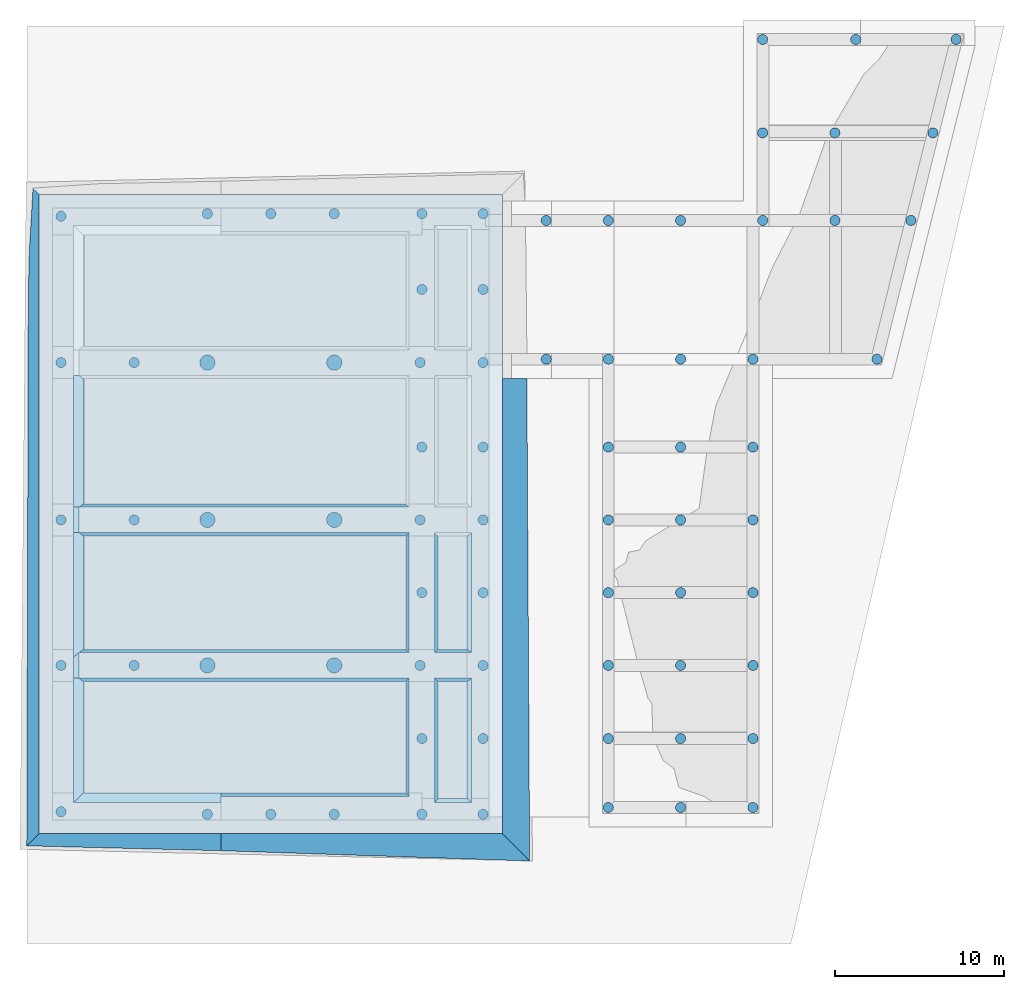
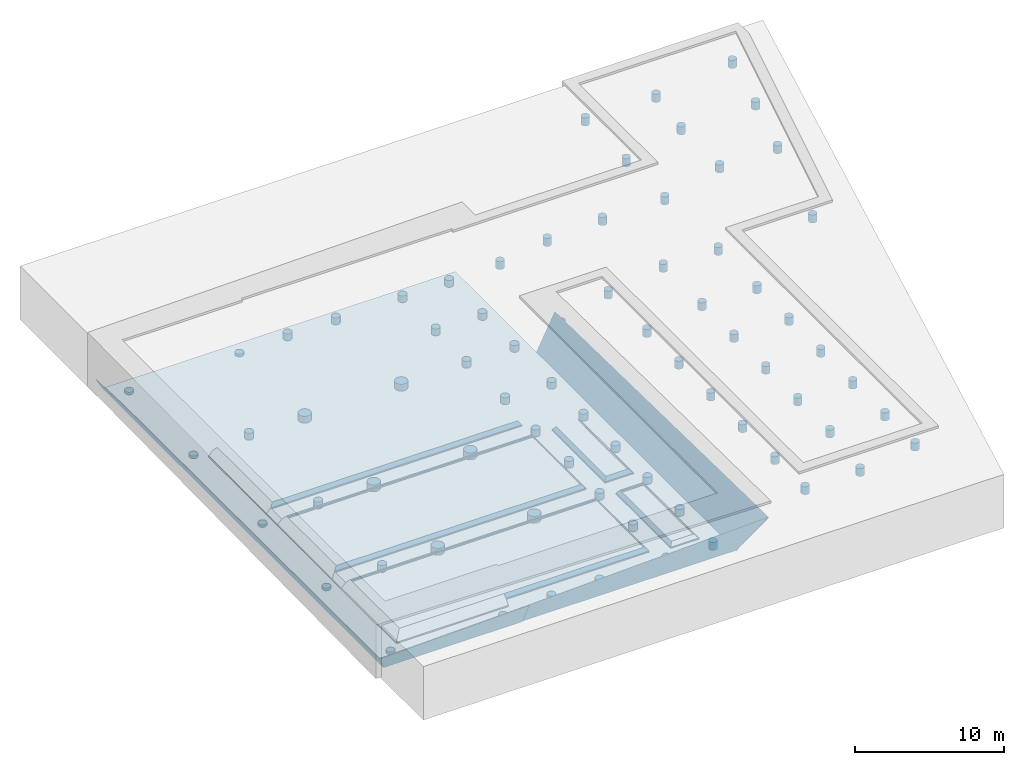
# One storey, part 1 of 7: 73 columns, 25 slabs.
"""IFC2X3 building model written with IfcOpenShell, lengths in millimetres."""

from ifc_helpers import new_model, entity, si_unit, converted_unit, derived_unit, money_unit, direction, frame, origin_with_axes, origin_2d_with_axis, place, context, subcontext, project, spatial, polyline, circle, outline, extrude, material, layer, layer_set, layer_usage, type_object, element, save


model = new_model("IFC2X3")

# Units and contexts
model_context = context("Model", 3, precision=0.01, world=origin_with_axes(), true_north=direction((0.0, 1.0)))
body_context = subcontext(model_context, "Body", "Model", "MODEL_VIEW")
ifc_project = project(units=[si_unit("LENGTHUNIT", "METRE", prefix="MILLI"), si_unit("AREAUNIT", "SQUARE_METRE"), si_unit("VOLUMEUNIT", "CUBIC_METRE"), converted_unit("PLANEANGLEUNIT", "DEGREE", entity("IfcPlaneAngleMeasure", 0.0174532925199), si_unit("PLANEANGLEUNIT", "RADIAN"), dimensions=[0, 0, 0, 0, 0, 0, 0]), money_unit("USD"), converted_unit("TIMEUNIT", "Year", entity("IfcTimeMeasure", 31556926.0), si_unit("TIMEUNIT", "SECOND"), dimensions=[0, 0, 1, 0, 0, 0, 0]), si_unit("MASSUNIT", "GRAM", prefix="KILO"), si_unit("THERMODYNAMICTEMPERATUREUNIT", "DEGREE_CELSIUS"), si_unit("LUMINOUSINTENSITYUNIT", "LUMEN"), si_unit("ENERGYUNIT", "JOULE", prefix="MEGA"), derived_unit("THERMALCONDUCTANCEUNIT", [(si_unit("POWERUNIT", "WATT"), 1), (si_unit("LENGTHUNIT", "METRE"), -1), (si_unit("THERMODYNAMICTEMPERATUREUNIT", "KELVIN"), -1)]), derived_unit("SPECIFICHEATCAPACITYUNIT", [(si_unit("ENERGYUNIT", "JOULE"), 1), (si_unit("MASSUNIT", "GRAM", prefix="KILO"), -1), (si_unit("THERMODYNAMICTEMPERATUREUNIT", "KELVIN"), -1)]), derived_unit("MASSDENSITYUNIT", [(si_unit("MASSUNIT", "GRAM", prefix="KILO"), 1), (si_unit("VOLUMEUNIT", "CUBIC_METRE"), -1)])], contexts=[model_context])

# Site, building, storey
site_placement = place(None, frame((9669.71692459, 4224.13032188, 0.0), z_axis=(0.0, 0.0, 1.0), x_axis=(1.0, 0.0, 0.0)))
site = spatial("IfcSite", under=ifc_project, at=site_placement, Name="Exteriér", CompositionType="ELEMENT")
building_placement = place(site_placement, origin_with_axes())
building = spatial("IfcBuilding", under=site, at=building_placement, Name="Budova", CompositionType="ELEMENT")
storey_placement = place(building_placement, frame((0.0, 0.0, -5000.0), z_axis=(0.0, 0.0, 1.0), x_axis=(1.0, 0.0, 0.0)))
storey = spatial("IfcBuildingStorey", under=building, at=storey_placement, Name="Základy", CompositionType="ELEMENT", Elevation=-5000.0)

# Columns
ifc_material_1 = material(Name="Železobeton C 20/25")
column_type_1 = type_object("IfcColumnType", Name="Železobeton C 20/25 D600", PredefinedType="COLUMN")
for number, where, z_axis, x_axis, name in (
    (1, (20204.7371319, 164.052499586, 2350.0), (0.0, 0.0, 1.0), (1.0, 0.0, 0.0), "K03"),
    (2, (-7820.25778142, 13089.0526984, 600.0), (0.0, 0.0, 1.0), (1.0, 0.0, 0.0), "K03"),
    (3, (-12145.2628681, -4160.94786567, 250.0), (0.0, 0.0, 1.0), (1.0, 0.0, 0.0), "K03"),
    (4, (-12145.2577814, 4489.05243066, 250.0), (0.0, 0.0, 1.0), (1.0, 0.0, 0.0), "K03"),
):
    element("IfcColumn", number, at=place(storey_placement, frame(where, z_axis=z_axis, x_axis=x_axis)), inside=storey, type_object=column_type_1, material=ifc_material_1, Name=name, context=body_context, shape_type="SweptSolid", body=[
        extrude(circle(Radius=300.0, at=origin_2d_with_axis()), origin_with_axes(), (0.0, 0.0, 1.0), 650.0),
    ])
column_1_placement = place(storey_placement, frame((4004.76224729, 31189.5400805, 600.0), z_axis=(0.0, 0.0, 1.0), x_axis=(-1.0, 0.0, 0.0)))
element("IfcColumn", 5, at=column_1_placement, inside=storey, type_object=column_type_1, material=ifc_material_1, Name="K03", context=body_context, shape_type="SweptSolid", body=[
    extrude(circle(Radius=300.0, at=origin_2d_with_axis()), frame((0.0, 0.0, 0.0), z_axis=(0.0, 0.0, -1.0), x_axis=(-1.0, 0.0, 0.0)), (0.0, 0.0, -1.0), 650.0),
])
for number, where, z_axis, x_axis, name in (
    (6, (-12145.2628681, 22389.0522029, 250.0), (0.0, 0.0, 1.0), (1.0, 0.0, 0.0), "K03"),
    (7, (12804.7371284, 22388.5642166, 600.0), (0.0, 0.0, 1.0), (1.0, 0.0, 0.0), "K03"),
    (8, (9184.76212196, -4311.43544694, 600.0), (0.0, 0.0, 1.0), (1.0, 0.0, 0.0), "K03"),
    (9, (28754.7371319, 164.052499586, 2940.0), (0.0, 0.0, 1.0), (1.0, 0.0, 0.0), "K03"),
    (10, (39387.3308835, 35969.0524993, 3040.0), (0.0, 0.0, 1.0), (1.0, 0.0, 0.0), "K03"),
    (11, (28754.7371319, -3910.94750072, 2940.0), (0.0, 0.0, 1.0), (1.0, 0.0, 0.0), "K03"),
    (12, (24479.7371319, 22589.0681254, 3048.0), (0.0, 0.0, 1.0), (1.0, 0.0, 0.0), "K03"),
):
    element("IfcColumn", number, at=place(storey_placement, frame(where, z_axis=z_axis, x_axis=x_axis)), inside=storey, type_object=column_type_1, material=ifc_material_1, Name=name, context=body_context, shape_type="SweptSolid", body=[
        extrude(circle(Radius=300.0, at=origin_2d_with_axis()), origin_with_axes(), (0.0, 0.0, 1.0), 650.0),
    ])
column_2_placement = place(storey_placement, frame((9184.76224728, 31189.5400805, 600.0), z_axis=(0.0, 0.0, 1.0), x_axis=(-1.0, 0.0, 0.0)))
element("IfcColumn", 13, at=column_2_placement, inside=storey, type_object=column_type_1, material=ifc_material_1, Name="K03", context=body_context, shape_type="SweptSolid", body=[
    extrude(circle(Radius=300.0, at=origin_2d_with_axis()), frame((0.0, 0.0, 0.0), z_axis=(0.0, 0.0, -1.0), x_axis=(-1.0, 0.0, 0.0)), (0.0, 0.0, -1.0), 650.0),
])
for number, where, z_axis, x_axis, name in (
    (14, (20204.7371319, 8789.05249929, 2340.41510655), (0.0, 0.0, 1.0), (1.0, 0.0, 0.0), "K03"),
    (15, (-7820.25778142, 22389.0522029, 600.0), (0.0, 0.0, 1.0), (1.0, 0.0, 0.0), "K03"),
    (16, (12804.7371284, 26713.5642166, 600.0), (0.0, 0.0, 1.0), (1.0, 0.0, 0.0), "K03"),
    (17, (28754.7371319, 4489.05249926, 2940.0), (0.0, 0.0, 1.0), (1.0, 0.0, 0.0), "K03"),
    (18, (12804.7371284, 163.564216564, 600.0), (0.0, 0.0, 1.0), (1.0, 0.0, 0.0), "K03"),
    (19, (24479.7371319, -3910.94750072, 2350.0), (0.0, 0.0, 1.0), (1.0, 0.0, 0.0), "K03"),
):
    element("IfcColumn", number, at=place(storey_placement, frame(where, z_axis=z_axis, x_axis=x_axis)), inside=storey, type_object=column_type_1, material=ifc_material_1, Name=name, context=body_context, shape_type="SweptSolid", body=[
        extrude(circle(Radius=300.0, at=origin_2d_with_axis()), origin_with_axes(), (0.0, 0.0, 1.0), 650.0),
    ])
for number, where, z_axis, x_axis, name in (
    (20, (-12145.2628681, 31039.0524993, 250.0), (0.0, 0.0, 1.0), (-1.0, 0.0, 0.0), "K03"),
    (21, (-3495.23757172, 31189.5400805, 250.0), (0.0, 0.0, 1.0), (-1.0, 0.0, 0.0), "K03"),
    (22, (254.762247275, 31189.5400805, 600.0), (0.0, 0.0, 1.0), (-1.0, 0.0, 0.0), "K03"),
):
    element("IfcColumn", number, at=place(storey_placement, frame(where, z_axis=z_axis, x_axis=x_axis)), inside=storey, type_object=column_type_1, material=ifc_material_1, Name=name, context=body_context, shape_type="SweptSolid", body=[
        extrude(circle(Radius=300.0, at=origin_2d_with_axis()), frame((0.0, 0.0, 0.0), z_axis=(0.0, 0.0, -1.0), x_axis=(-1.0, 0.0, 0.0)), (0.0, 0.0, -1.0), 650.0),
    ])
for number, where, z_axis, x_axis, name in (
    (23, (24479.7371319, 8789.05249929, 3048.0), (0.0, 0.0, 1.0), (1.0, 0.0, 0.0), "K03"),
    (24, (20204.7371319, 17389.0524993, 2350.0), (0.0, 0.0, 1.0), (1.0, 0.0, 0.0), "K03"),
    (25, (28754.7371319, 17389.0524993, 2940.0), (0.0, 0.0, 1.0), (1.0, 0.0, 0.0), "K03"),
    (26, (24479.7371319, 13089.0524993, 3048.0), (0.0, 0.0, 1.0), (1.0, 0.0, 0.0), "K03"),
    (27, (12804.7371284, -4311.43578344, 600.0), (0.0, 0.0, 1.0), (1.0, 0.0, 0.0), "K03"),
    (28, (24479.7371319, 17389.0524993, 3048.0), (0.0, 0.0, 1.0), (1.0, 0.0, 0.0), "K03"),
    (29, (4004.76224729, -4311.43544694, 600.0), (0.0, 0.0, 1.0), (1.0, 0.0, 0.0), "K03"),
    (30, (9184.73712196, 164.052282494, 600.0), (0.0, 0.0, 1.0), (1.0, 0.0, 0.0), "K03"),
    (31, (12804.7371284, 17388.5642163, 600.0), (0.0, 0.0, 1.0), (1.0, 0.0, 0.0), "K03"),
    (32, (24479.7371319, 164.052499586, 3048.0), (0.0, 0.0, 1.0), (1.0, 0.0, 0.0), "K03"),
    (33, (-12145.2577814, 13089.0526984, 250.0), (0.0, 0.0, 1.0), (1.0, 0.0, 0.0), "K03"),
    (34, (28754.7371319, 8789.05249929, 2940.0), (0.0, 0.0, 1.0), (1.0, 0.0, 0.0), "K03"),
    (35, (20204.7371319, 4489.05249926, 2350.0), (0.0, 0.0, 1.0), (1.0, 0.0, 0.0), "K03"),
    (36, (38094.3308835, 30789.0524992, 3048.0), (0.0, 0.0, 1.0), (1.0, 0.0, 0.0), "K03"),
    (37, (9084.7372608, 22389.0522029, 600.0), (0.0, 0.0, 1.0), (1.0, 0.0, 0.0), "K03"),
    (38, (12804.7371284, 4488.5642166, 600.0), (0.0, 0.0, 1.0), (1.0, 0.0, 0.0), "K03"),
    (39, (28754.7371319, 13089.0524993, 2940.0), (0.0, 0.0, 1.0), (1.0, 0.0, 0.0), "K03"),
    (40, (9084.7372608, 13089.0526984, 600.0), (0.0, 0.0, 1.0), (1.0, 0.0, 0.0), "K03"),
    (41, (34830.3308835, 41489.0534133, 1920.0), (0.0, 0.0, 1.0), (1.0, 0.0, 0.0), "K03"),
    (42, (33600.3308835, 30789.0524992, 3048.0), (0.0, 0.0, 1.0), (1.0, 0.0, 0.0), "K03"),
    (43, (16534.7371319, 22589.0681254, 1080.0), (0.0, 0.0, 1.0), (1.0, 0.0, 0.0), "K03"),
    (44, (24479.7371319, 4489.05249926, 3048.0), (0.0, 0.0, 1.0), (1.0, 0.0, 0.0), "K03"),
):
    element("IfcColumn", number, at=place(storey_placement, frame(where, z_axis=z_axis, x_axis=x_axis)), inside=storey, type_object=column_type_1, material=ifc_material_1, Name=name, context=body_context, shape_type="SweptSolid", body=[
        extrude(circle(Radius=300.0, at=origin_2d_with_axis()), origin_with_axes(), (0.0, 0.0, 1.0), 650.0),
    ])
column_3_placement = place(storey_placement, frame((12804.7371284, 31188.5642162, 600.0), z_axis=(0.0, 0.0, 1.0), x_axis=(-1.0, 0.0, 0.0)))
element("IfcColumn", 45, at=column_3_placement, inside=storey, type_object=column_type_1, material=ifc_material_1, Name="K03", context=body_context, shape_type="SweptSolid", body=[
    extrude(circle(Radius=300.0, at=origin_2d_with_axis()), frame((0.0, 0.0, 0.0), z_axis=(0.0, 0.0, -1.0), x_axis=(-1.0, 0.0, 0.0)), (0.0, 0.0, -1.0), 650.0),
])
for number, where, z_axis, x_axis, name in (
    (46, (12804.7371284, 13088.5642163, 600.0), (0.0, 0.0, 1.0), (1.0, 0.0, 0.0), "K03"),
    (47, (29330.3308835, 35969.0524993, 1920.0), (0.0, 0.0, 1.0), (1.0, 0.0, 0.0), "K03"),
    (48, (29330.3308835, 30789.0524992, 1920.0), (0.0, 0.0, 1.0), (1.0, 0.0, 0.0), "K03"),
    (49, (29330.3308835, 41489.0534133, 1920.0), (0.0, 0.0, 1.0), (1.0, 0.0, 0.0), "K03"),
    (50, (20204.7371319, -3910.94750072, 2350.0), (0.0, 0.0, 1.0), (1.0, 0.0, 0.0), "K03"),
    (51, (40761.3308835, 41489.0534133, 2640.0), (0.0, 0.0, 1.0), (1.0, 0.0, 0.0), "K03"),
    (52, (24479.7371319, 30789.0524992, 1920.0), (0.0, 0.0, 1.0), (1.0, 0.0, 0.0), "K03"),
    (53, (20204.7371319, 13089.0524993, 2350.0), (0.0, 0.0, 1.0), (1.0, 0.0, 0.0), "K03"),
    (54, (36083.7112354, 22589.0681254, 3040.0), (0.0, 0.0, 1.0), (1.0, 0.0, 0.0), "K03"),
    (55, (254.762247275, -4311.43544694, 600.0), (0.0, 0.0, 1.0), (1.0, 0.0, 0.0), "K03"),
    (56, (20204.7371319, 30789.0524992, 1700.0), (0.0, 0.0, 1.0), (1.0, 0.0, 0.0), "K03"),
    (57, (9184.73712196, 8789.05256452, 600.0), (0.0, 0.0, 1.0), (1.0, 0.0, 0.0), "K03"),
    (58, (20204.7371319, 22589.0681254, 2350.0), (0.0, 0.0, 1.0), (1.0, 0.0, 0.0), "K03"),
    (59, (16534.7371319, 30789.0524992, 1087.0), (0.0, 0.0, 1.0), (1.0, 0.0, 0.0), "K03"),
    (60, (28754.7371319, 22589.0681254, 2940.0), (0.0, 0.0, 1.0), (1.0, 0.0, 0.0), "K03"),
    (61, (-3495.23757172, -4311.43544694, 250.0), (0.0, 0.0, 1.0), (1.0, 0.0, 0.0), "K03"),
    (62, (-7820.25778142, 4489.05243066, 600.0), (0.0, 0.0, 1.0), (1.0, 0.0, 0.0), "K03"),
    (63, (9184.73712196, 26714.0523511, 600.0), (0.0, 0.0, 1.0), (1.0, 0.0, 0.0), "K03"),
    (64, (12804.7371284, 8786.47912805, 600.0), (0.0, 0.0, 1.0), (1.0, 0.0, 0.0), "K03"),
    (65, (9084.7372608, 4489.05243066, 600.0), (0.0, 0.0, 1.0), (1.0, 0.0, 0.0), "K03"),
    (66, (33600.3308835, 35969.0524993, 3040.0), (0.0, 0.0, 1.0), (1.0, 0.0, 0.0), "K03"),
    (67, (9184.73712196, 17388.7000933, 600.0), (0.0, 0.0, 1.0), (1.0, 0.0, 0.0), "K03"),
):
    element("IfcColumn", number, at=place(storey_placement, frame(where, z_axis=z_axis, x_axis=x_axis)), inside=storey, type_object=column_type_1, material=ifc_material_1, Name=name, context=body_context, shape_type="SweptSolid", body=[
        extrude(circle(Radius=300.0, at=origin_2d_with_axis()), origin_with_axes(), (0.0, 0.0, 1.0), 650.0),
    ])
column_type_2 = type_object("IfcColumnType", Name="Železobeton C 20/25 D900", PredefinedType="COLUMN")
for number, where, z_axis, x_axis, name in (
    (68, (4004.73706627, 22389.0522029, 600.0), (0.0, 0.0, 1.0), (1.0, 0.0, 0.0), "K03"),
    (69, (-3495.26257172, 22389.0524307, 600.0), (0.0, 0.0, 1.0), (1.0, 0.0, 0.0), "K03"),
    (70, (-3495.26257172, 13089.0524303, 600.0), (0.0, 0.0, 1.0), (1.0, 0.0, 0.0), "K03"),
    (71, (4004.73742829, 4489.05243066, 600.0), (0.0, 0.0, 1.0), (1.0, 0.0, 0.0), "K03"),
    (72, (4004.73742829, 13089.0524303, 600.0), (0.0, 0.0, 1.0), (1.0, 0.0, 0.0), "K03"),
    (73, (-3495.26257172, 4489.05243066, 600.0), (0.0, 0.0, 1.0), (1.0, 0.0, 0.0), "K03"),
):
    element("IfcColumn", number, at=place(storey_placement, frame(where, z_axis=z_axis, x_axis=x_axis)), inside=storey, type_object=column_type_2, material=ifc_material_1, Name=name, context=body_context, shape_type="SweptSolid", body=[
        extrude(circle(Radius=450.0, at=origin_2d_with_axis()), origin_with_axes(), (0.0, 0.0, 1.0), 650.0),
    ])

# Slabs
ifc_material_2 = material(Name="Zemina - původní")
ifc_layer_1 = layer(ifc_material_2, 1.0, ventilated="UNKNOWN")
ifc_layer_set_1 = layer_set([ifc_layer_1], Name="Zemina - původní 1")
ifc_layer_usage_1 = layer_usage(ifc_layer_set_1, "AXIS3", "NEGATIVE", 1.0)
slab_type_1 = type_object("IfcSlabType", Name="Zemina - původní 1", PredefinedType="FLOOR")
slab_1_placement = place(storey_placement, frame((13954.737132, 32339.0524992, 699.0), z_axis=(0.0, 0.0, 1.0), x_axis=(1.0, 0.0, 0.0)))
element("IfcSlab", 74, at=slab_1_placement, inside=storey, type_object=slab_type_1, material=ifc_layer_usage_1, Name="Pomocné výkopy", PredefinedType="FLOOR", context=body_context, shape_type="SweptSolid", body=[
    extrude(outline(polyline([(0.0, 0.0), (-27404.0, 3.2585489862e-08), (-27401.326437, -37799.9999997), (0.0, -37799.9999997), (0.0, 0.0)])), origin_with_axes(), (0.0, 0.0, 1.0), 1.0),
])
ifc_layer_2 = layer(ifc_material_2, 19.859895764, ventilated="UNKNOWN")
ifc_layer_set_2 = layer_set([ifc_layer_2], Name="Zemina - původní 19.8599")
ifc_layer_usage_2 = layer_usage(ifc_layer_set_2, "AXIS3", "NEGATIVE", 19.859895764)
slab_type_2 = type_object("IfcSlabType", Name="Zemina - původní 20", PredefinedType="ROOF")
slab_2_placement = place(storey_placement, frame((-2680.51488801, -5460.94750041, 656.254820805), z_axis=(0.0, 0.0, 1.0), x_axis=(-1.0, 0.0, 0.0)))
element("IfcSlab", 75, at=slab_2_placement, inside=storey, type_object=slab_type_2, material=ifc_layer_usage_2, Name="Pomocné výkopy", PredefinedType="ROOF", context=body_context, shape_type="SweptSolid", body=[
    extrude(outline(polyline([(0.0, 0.0), (10764.7479801, 0.0), (11499.0389559, 1576.83439449), (0.0, 2212.32665674), (0.0, 0.0)])), frame((0.0, 0.0, 0.0), z_axis=(0.0, -0.891006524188, 0.45399049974), x_axis=(1.0, 0.0, 0.0)), (0.0, 0.891006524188, 0.45399049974), 43.7451791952),
])
ifc_layer_usage_3 = layer_usage(ifc_layer_set_2, "AXIS3", "NEGATIVE", 19.859895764)
slab_3_placement = place(storey_placement, frame((-13445.2628681, -5460.94750041, 656.254820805), z_axis=(0.0, 0.0, 1.0), x_axis=(0.0, 1.0, 0.0)))
element("IfcSlab", 76, at=slab_3_placement, inside=storey, type_object=slab_type_2, material=ifc_layer_usage_3, Name="Pomocné výkopy", PredefinedType="ROOF", context=body_context, shape_type="SweptSolid", body=[
    extrude(outline(polyline([(-734.290975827, 1600.90604131), (0.0, 0.0), (37799.9999997, 0.0), (38178.6321161, 784.912536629), (34517.9143336, 1254.64251452), (32051.8578137, 1390.73334327), (-734.290975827, 1600.90604131)])), frame((0.0, 0.0, 0.0), z_axis=(0.0, -0.891006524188, 0.45399049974), x_axis=(1.0, 0.0, 0.0)), (0.0, 0.891006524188, 0.45399049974), 43.7451791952),
])
ifc_material_3 = material(Name="Beton Prostý C 16/20")
ifc_layer_3 = layer(ifc_material_3, 58.3966337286, ventilated="UNKNOWN")
ifc_layer_set_3 = layer_set([ifc_layer_3], Name="Beton Prostý C 16/20 58.3966")
ifc_layer_usage_4 = layer_usage(ifc_layer_set_3, "AXIS3", "NEGATIVE", 58.3966337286)
slab_type_3 = type_object("IfcSlabType", Name="Beton Prostý C 16/20 58", PredefinedType="ROOF")
slab_4_placement = place(storey_placement, frame((12114.7374048, 3739.05243066, 1150.0), z_axis=(0.0, 0.0, 1.0), x_axis=(-1.0, 0.0, 0.0)))
element("IfcSlab", 77, at=slab_4_placement, inside=storey, type_object=slab_type_3, material=ifc_layer_usage_4, Name="Podkladní beton", PredefinedType="ROOF", context=body_context, shape_type="SweptSolid", body=[
    extrude(outline(polyline([(0.0, 0.0), (2180.00026948, 0.0), (1980.00027925, 342.485494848), (249.999982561, 342.485494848), (0.0, 0.0)])), frame((0.0, 0.0, 0.0), z_axis=(0.0, -0.811777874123, 0.583966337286), x_axis=(1.0, 0.0, 0.0)), (0.0, 0.811777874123, 0.583966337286), 100.0),
])
ifc_layer_usage_5 = layer_usage(ifc_layer_set_3, "AXIS3", "NEGATIVE", 58.3966337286)
slab_5_placement = place(storey_placement, frame((8434.73712196, 5239.05243066, 1150.0), z_axis=(0.0, 0.0, 1.0), x_axis=(-1.0, 0.0, 0.0)))
element("IfcSlab", 78, at=slab_5_placement, inside=storey, type_object=slab_type_3, material=ifc_layer_usage_5, Name="Podkladní beton", PredefinedType="ROOF", context=body_context, shape_type="SweptSolid", body=[
    extrude(outline(polyline([(0.0, 0.0), (200.0, -342.485494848), (19265.000137, -342.485494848), (19515.1115981, 0.0), (0.0, 0.0)])), frame((0.0, 0.0, 0.0), z_axis=(0.0, 0.811777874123, 0.583966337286), x_axis=(1.0, 0.0, 0.0)), (0.0, -0.811777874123, 0.583966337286), 100.0),
])
ifc_layer_usage_6 = layer_usage(ifc_layer_set_3, "AXIS3", "NEGATIVE", 58.3966337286)
slab_6_placement = place(storey_placement, frame((9934.73711791, 3739.05243066, 1150.0), z_axis=(0.0, 0.0, 1.0), x_axis=(2.36942822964e-09, -1.0, 0.0)))
element("IfcSlab", 79, at=slab_6_placement, inside=storey, type_object=slab_type_3, material=ifc_layer_usage_6, Name="Podkladní beton", PredefinedType="ROOF", context=body_context, shape_type="SweptSolid", body=[
    extrude(outline(polyline([(0.0, 0.0), (7360.00029633, 0.0), (7109.99979307, 342.485472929), (200.000000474, 342.485507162), (0.0, 0.0)])), frame((0.0, 0.0, 0.0), z_axis=(0.0, -0.811777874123, 0.583966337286), x_axis=(1.0, 0.0, 0.0)), (0.0, 0.811777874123, 0.583966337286), 100.0),
])
ifc_layer_usage_7 = layer_usage(ifc_layer_set_3, "AXIS3", "NEGATIVE", 58.3966337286)
slab_7_placement = place(storey_placement, frame((12114.7374048, 5239.05243066, 1162.66737047), z_axis=(0.0, 0.0, 1.0), x_axis=(2.45618802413e-09, 1.0, 0.0)))
element("IfcSlab", 80, at=slab_7_placement, inside=storey, type_object=slab_type_3, material=ifc_layer_usage_7, Name="Podkladní beton", PredefinedType="ROOF", context=body_context, shape_type="SweptSolid", body=[
    extrude(outline(polyline([(7100.00026771, 0.0), (6900.0002671, 373.876984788), (199.999999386, 373.876960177), (0.0, 0.0), (7100.00026771, 0.0)])), frame((0.0, 0.0, 0.0), z_axis=(0.0, -0.743560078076, 0.668669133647), x_axis=(1.0, 0.0, 0.0)), (0.0, 0.743560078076, 0.668669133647), 87.3326295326),
])
ifc_layer_usage_8 = layer_usage(ifc_layer_set_3, "AXIS3", "NEGATIVE", 58.3966337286)
slab_8_placement = place(storey_placement, frame((-11080.3744761, 12339.0526984, 1151.75255349), z_axis=(0.0, 0.0, 1.0), x_axis=(1.0, 0.0, 0.0)))
element("IfcSlab", 81, at=slab_8_placement, inside=storey, type_object=slab_type_3, material=ifc_layer_usage_8, Name="Podkladní beton", PredefinedType="ROOF", context=body_context, shape_type="SweptSolid", body=[
    extrude(outline(polyline([(19515.1115981, 0.0), (0.0, 0.0), (250.11146112, -341.321707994), (19315.1115981, -341.321707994), (19515.1115981, 0.0)])), frame((0.0, 0.0, 0.0), z_axis=(0.0, 0.810341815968, 0.585957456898), x_axis=(1.0, 0.0, 0.0)), (0.0, -0.810341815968, 0.585957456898), 99.6601938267),
])
ifc_layer_usage_9 = layer_usage(ifc_layer_set_3, "AXIS3", "NEGATIVE", 58.3966337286)
slab_9_placement = place(storey_placement, frame((8434.73712196, -3255.94736193, 1151.75255349), z_axis=(0.0, 0.0, 1.0), x_axis=(-1.0, 0.0, 0.0)))
element("IfcSlab", 82, at=slab_9_placement, inside=storey, type_object=slab_type_3, material=ifc_layer_usage_9, Name="Podkladní beton", PredefinedType="ROOF", context=body_context, shape_type="SweptSolid", body=[
    extrude(outline(polyline([(0.0, 0.0), (200.0, -341.321707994), (11115.25201, -341.321707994), (11115.25201, 0.0), (0.0, 0.0)])), frame((0.0, 0.0, 0.0), z_axis=(0.0, 0.810341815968, 0.585957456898), x_axis=(1.0, 0.0, 0.0)), (0.0, -0.810341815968, 0.585957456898), 99.6601938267),
])
ifc_layer_usage_10 = layer_usage(ifc_layer_set_3, "AXIS3", "NEGATIVE", 58.3966337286)
slab_10_placement = place(storey_placement, frame((9934.73713535, -3620.94786567, 1162.66746785), z_axis=(0.0, 0.0, 1.0), x_axis=(1.0, 0.0, 0.0)))
element("IfcSlab", 83, at=slab_10_placement, inside=storey, type_object=slab_type_3, material=ifc_layer_usage_10, Name="Podkladní beton", PredefinedType="ROOF", context=body_context, shape_type="SweptSolid", body=[
    extrude(outline(polyline([(2180.00026948, 0.0), (1930.00028692, 373.877321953), (199.999986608, 373.877321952), (0.0, 0.0), (2180.00026948, 0.0)])), frame((0.0, 0.0, 0.0), z_axis=(0.0, -0.74355940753, 0.668669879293), x_axis=(1.0, 0.0, 0.0)), (0.0, 0.74355940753, 0.668669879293), 87.3325321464),
])
ifc_layer_usage_11 = layer_usage(ifc_layer_set_3, "AXIS3", "NEGATIVE", 58.3966337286)
slab_11_placement = place(storey_placement, frame((8434.73712196, 13839.0526984, 1150.0), z_axis=(0.0, 0.0, 1.0), x_axis=(-1.0, 0.0, 0.0)))
element("IfcSlab", 84, at=slab_11_placement, inside=storey, type_object=slab_type_3, material=ifc_layer_usage_11, Name="Podkladní beton", PredefinedType="ROOF", context=body_context, shape_type="SweptSolid", body=[
    extrude(outline(polyline([(0.0, 0.0), (200.0, -342.485494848), (19265.000137, -342.485494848), (19515.1115981, 0.0), (0.0, 0.0)])), frame((0.0, 0.0, 0.0), z_axis=(0.0, 0.811777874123, 0.583966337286), x_axis=(1.0, 0.0, 0.0)), (0.0, -0.811777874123, 0.583966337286), 100.0),
])
ifc_layer_usage_12 = layer_usage(ifc_layer_set_3, "AXIS3", "NEGATIVE", 58.3966337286)
slab_12_placement = place(storey_placement, frame((-11080.3744761, 3739.05243066, 1151.75255349), z_axis=(0.0, 0.0, 1.0), x_axis=(1.0, 0.0, 0.0)))
element("IfcSlab", 85, at=slab_12_placement, inside=storey, type_object=slab_type_3, material=ifc_layer_usage_12, Name="Podkladní beton", PredefinedType="ROOF", context=body_context, shape_type="SweptSolid", body=[
    extrude(outline(polyline([(19515.1115981, 0.0), (0.0, 0.0), (250.11146112, -341.321707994), (19315.1115981, -341.321707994), (19515.1115981, 0.0)])), frame((0.0, 0.0, 0.0), z_axis=(0.0, 0.810341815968, 0.585957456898), x_axis=(1.0, 0.0, 0.0)), (0.0, -0.810341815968, 0.585957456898), 99.6601938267),
])
ifc_layer_usage_13 = layer_usage(ifc_layer_set_3, "AXIS3", "NEGATIVE", 58.3966337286)
slab_13_placement = place(storey_placement, frame((9934.73711791, 12339.0526984, 1150.0), z_axis=(0.0, 0.0, 1.0), x_axis=(2.45620003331e-09, -1.0, 0.0)))
element("IfcSlab", 86, at=slab_13_placement, inside=storey, type_object=slab_type_3, material=ifc_layer_usage_13, Name="Podkladní beton", PredefinedType="ROOF", context=body_context, shape_type="SweptSolid", body=[
    extrude(outline(polyline([(0.0, 0.0), (7100.00026771, 0.0), (6900.0002682, 342.485495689), (200.000000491, 342.485507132), (0.0, 0.0)])), frame((0.0, 0.0, 0.0), z_axis=(0.0, -0.811777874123, 0.583966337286), x_axis=(1.0, 0.0, 0.0)), (0.0, 0.811777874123, 0.583966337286), 100.0),
])
ifc_layer_usage_14 = layer_usage(ifc_layer_set_3, "AXIS3", "NEGATIVE", 58.3966337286)
slab_14_placement = place(storey_placement, frame((12114.7374048, -3620.94786567, 1162.66737047), z_axis=(0.0, 0.0, 1.0), x_axis=(2.36942822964e-09, 1.0, 0.0)))
element("IfcSlab", 87, at=slab_14_placement, inside=storey, type_object=slab_type_3, material=ifc_layer_usage_14, Name="Podkladní beton", PredefinedType="ROOF", context=body_context, shape_type="SweptSolid", body=[
    extrude(outline(polyline([(7360.00029633, 0.0), (7160.00029574, 373.8769848), (250.000503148, 373.876960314), (0.0, 0.0), (7360.00029633, 0.0)])), frame((0.0, 0.0, 0.0), z_axis=(0.0, -0.743560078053, 0.668669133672), x_axis=(1.0, 0.0, 0.0)), (0.0, 0.743560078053, 0.668669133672), 87.3326295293),
])
ifc_layer_usage_15 = layer_usage(ifc_layer_set_3, "AXIS3", "NEGATIVE", 58.3966337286)
slab_15_placement = place(storey_placement, frame((9934.73713535, 5239.05243066, 1150.0), z_axis=(0.0, 0.0, 1.0), x_axis=(1.0, 0.0, 0.0)))
element("IfcSlab", 88, at=slab_15_placement, inside=storey, type_object=slab_type_3, material=ifc_layer_usage_15, Name="Podkladní beton", PredefinedType="ROOF", context=body_context, shape_type="SweptSolid", body=[
    extrude(outline(polyline([(2180.00026948, 0.0), (1930.00028692, 342.485494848), (200.0, 342.485494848), (0.0, 0.0), (2180.00026948, 0.0)])), frame((0.0, 0.0, 0.0), z_axis=(0.0, -0.811777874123, 0.583966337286), x_axis=(1.0, 0.0, 0.0)), (0.0, 0.811777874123, 0.583966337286), 100.0),
])
ifc_layer_usage_16 = layer_usage(ifc_layer_set_3, "AXIS3", "NEGATIVE", 58.3966337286)
slab_16_placement = place(storey_placement, frame((8434.73712196, 5239.05243066, 1150.0), z_axis=(0.0, 0.0, 1.0), x_axis=(0.0, 1.0, 0.0)))
element("IfcSlab", 89, at=slab_16_placement, inside=storey, type_object=slab_type_3, material=ifc_layer_usage_16, Name="Podkladní beton", PredefinedType="ROOF", context=body_context, shape_type="SweptSolid", body=[
    extrude(outline(polyline([(7100.00026771, 0.0), (6900.00026771, 342.485494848), (200.0, 342.485494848), (0.0, 0.0), (7100.00026771, 0.0)])), frame((0.0, 0.0, 0.0), z_axis=(0.0, -0.811777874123, 0.583966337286), x_axis=(1.0, 0.0, 0.0)), (0.0, 0.811777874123, 0.583966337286), 100.0),
])
ifc_layer_usage_17 = layer_usage(ifc_layer_set_3, "AXIS3", "NEGATIVE", 58.3966337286)
slab_17_placement = place(storey_placement, frame((8434.73712196, -3255.94736193, 1150.0), z_axis=(0.0, 0.0, 1.0), x_axis=(0.0, 1.0, 0.0)))
element("IfcSlab", 90, at=slab_17_placement, inside=storey, type_object=slab_type_3, material=ifc_layer_usage_17, Name="Podkladní beton", PredefinedType="ROOF", context=body_context, shape_type="SweptSolid", body=[
    extrude(outline(polyline([(6994.99979259, 0.0), (6794.99979259, 342.485494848), (200.0, 342.485494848), (0.0, 0.0), (6994.99979259, 0.0)])), frame((0.0, 0.0, 0.0), z_axis=(0.0, -0.811777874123, 0.583966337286), x_axis=(1.0, 0.0, 0.0)), (0.0, 0.811777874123, 0.583966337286), 100.0),
])
ifc_layer_4 = layer(ifc_material_3, 66.8833917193, ventilated="UNKNOWN")
ifc_layer_set_4 = layer_set([ifc_layer_4], Name="Beton Prostý C 16/20 66.8834")
ifc_layer_usage_18 = layer_usage(ifc_layer_set_4, "AXIS3", "NEGATIVE", 66.8833917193)
slab_type_4 = type_object("IfcSlabType", Name="Beton Prostý C 16/20 67", PredefinedType="ROOF")
slab_18_placement = place(storey_placement, frame((-11395.263015, -3620.94736193, 800.0), z_axis=(0.0, 0.0, 1.0), x_axis=(0.0, 1.0, 0.0)))
element("IfcSlab", 91, at=slab_18_placement, inside=storey, type_object=slab_type_4, material=ifc_layer_usage_18, Name="Podkladní beton", PredefinedType="ROOF", context=body_context, shape_type="SweptSolid", body=[
    extrude(outline(polyline([(7359.99979259, -470.802211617), (7359.99979259, 0.0), (0.0, 0.0), (565.000031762, -844.753857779), (7159.99976485, -844.753857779), (7359.99979259, -470.802211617)])), frame((0.0, 0.0, 0.0), z_axis=(0.0, 0.743411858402, 0.668833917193), x_axis=(1.0, 0.0, 0.0)), (0.0, -0.743411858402, 0.668833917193), 100.0),
])
ifc_layer_usage_19 = layer_usage(ifc_layer_set_4, "AXIS3", "NEGATIVE", 66.8833917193)
slab_19_placement = place(storey_placement, frame((-11395.263015, 13587.2541303, 800.0), z_axis=(0.0, 0.0, 1.0), x_axis=(0.0, -1.0, 0.0)))
element("IfcSlab", 92, at=slab_19_placement, inside=storey, type_object=slab_type_4, material=ifc_layer_usage_19, Name="Podkladní beton", PredefinedType="ROOF", context=body_context, shape_type="SweptSolid", body=[
    extrude(outline(polyline([(-251.798568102, 0.0), (1248.2014319, 0.0), (1248.2014319, 470.802211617), (-251.798568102, 470.802288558), (-251.798568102, 0.0)])), frame((0.0, 0.0, 0.0), z_axis=(0.0, -0.743411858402, 0.668833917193), x_axis=(1.0, 0.0, 0.0)), (0.0, 0.743411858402, 0.668833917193), 100.0),
])
ifc_layer_usage_20 = layer_usage(ifc_layer_set_4, "AXIS3", "NEGATIVE", 66.8833917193)
slab_20_placement = place(storey_placement, frame((-11395.263015, 13839.0526984, 800.0), z_axis=(0.0, 0.0, 1.0), x_axis=(0.0, 1.0, 0.0)))
element("IfcSlab", 93, at=slab_20_placement, inside=storey, type_object=slab_type_4, material=ifc_layer_usage_20, Name="Podkladní beton", PredefinedType="ROOF", context=body_context, shape_type="SweptSolid", body=[
    extrude(outline(polyline([(7799.99950456, 0.0), (0.0, 0.0), (0.0, -470.802288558), (200.0, -844.75381029), (7599.99950456, -844.75381029), (7799.99950456, -470.802288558), (7799.99950456, 0.0)])), frame((0.0, 0.0, 0.0), z_axis=(0.0, 0.743411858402, 0.668833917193), x_axis=(1.0, 0.0, 0.0)), (0.0, -0.743411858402, 0.668833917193), 100.0),
])
ifc_layer_usage_21 = layer_usage(ifc_layer_set_4, "AXIS3", "NEGATIVE", 66.8833917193)
slab_21_placement = place(storey_placement, frame((-11395.263015, 4987.25386256, 800.0), z_axis=(0.0, 0.0, 1.0), x_axis=(0.0, -1.0, 0.0)))
element("IfcSlab", 94, at=slab_21_placement, inside=storey, type_object=slab_type_4, material=ifc_layer_usage_21, Name="Podkladní beton", PredefinedType="ROOF", context=body_context, shape_type="SweptSolid", body=[
    extrude(outline(polyline([(0.0, 0.0), (1248.2014319, 0.0), (1248.2014319, 470.802211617), (-251.798568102, 470.802288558), (0.0, 0.0)])), frame((0.0, 0.0, 0.0), z_axis=(0.0, -0.743411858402, 0.668833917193), x_axis=(1.0, 0.0, 0.0)), (0.0, 0.743411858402, 0.668833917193), 100.0),
])
ifc_layer_usage_22 = layer_usage(ifc_layer_set_4, "AXIS3", "NEGATIVE", 66.8833917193)
slab_22_placement = place(storey_placement, frame((-11395.263015, 5239.05243066, 800.0), z_axis=(0.0, 0.0, 1.0), x_axis=(0.0, 1.0, 0.0)))
element("IfcSlab", 95, at=slab_22_placement, inside=storey, type_object=slab_type_4, material=ifc_layer_usage_22, Name="Podkladní beton", PredefinedType="ROOF", context=body_context, shape_type="SweptSolid", body=[
    extrude(outline(polyline([(7100.00026771, -470.802244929), (7100.00026771, 0.0), (-251.798568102, 0.0), (199.999951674, -844.75373765), (6900.00026649, -844.75373765), (7100.00026771, -470.802244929)])), frame((0.0, 0.0, 0.0), z_axis=(0.0, 0.743411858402, 0.668833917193), x_axis=(1.0, 0.0, 0.0)), (0.0, -0.743411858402, 0.668833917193), 100.0),
])
ifc_layer_usage_23 = layer_usage(ifc_layer_set_4, "AXIS3", "NEGATIVE", 66.8833917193)
slab_23_placement = place(storey_placement, frame((-2680.51488801, -3620.94736193, 800.0), z_axis=(0.0, 0.0, 1.0), x_axis=(-1.0, 0.0, 0.0)))
element("IfcSlab", 96, at=slab_23_placement, inside=storey, type_object=slab_type_4, material=ifc_layer_usage_23, Name="Podkladní beton", PredefinedType="ROOF", context=body_context, shape_type="SweptSolid", body=[
    extrude(outline(polyline([(0.0, 0.0), (0.0, -844.75381029), (8149.74812699, -844.75381029), (8714.74812699, 0.0), (0.0, 0.0)])), frame((0.0, 0.0, 0.0), z_axis=(0.0, 0.743411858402, 0.668833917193), x_axis=(1.0, 0.0, 0.0)), (0.0, -0.743411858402, 0.668833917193), 100.0),
])
ifc_layer_5 = layer(ifc_material_2, 14.9816864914, ventilated="UNKNOWN")
ifc_layer_set_5 = layer_set([ifc_layer_5], Name="Zemina - původní 14.9817")
ifc_layer_usage_24 = layer_usage(ifc_layer_set_5, "AXIS3", "NEGATIVE", 14.9816864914)
slab_type_5 = type_object("IfcSlabType", Name="Zemina - původní 15", PredefinedType="ROOF")
slab_24_placement = place(storey_placement, frame((13954.737132, -5460.94750041, 667.000000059), z_axis=(0.0, 0.0, 1.0), x_axis=(0.0, 1.0, 0.0)))
element("IfcSlab", 97, at=slab_24_placement, inside=storey, type_object=slab_type_5, material=ifc_layer_usage_24, Name="Pomocné výkopy", PredefinedType="ROOF", context=body_context, shape_type="SweptSolid", body=[
    extrude(outline(polyline([(26900.0102683, -3165.03228861), (26900.0102683, 0.0), (0.0, 0.0), (-1614.11606827, -3526.13334431), (26900.0102683, -3165.03228861)])), frame((0.0, 0.0, 0.0), z_axis=(0.0, 0.891006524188, 0.45399049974), x_axis=(1.0, 0.0, 0.0)), (0.0, -0.891006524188, 0.45399049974), 33.0),
])
ifc_layer_6 = layer(ifc_material_2, 0.45399049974, ventilated="UNKNOWN")
ifc_layer_set_6 = layer_set([ifc_layer_6], Name="Zemina - původní 0.45399")
ifc_layer_usage_25 = layer_usage(ifc_layer_set_6, "AXIS3", "NEGATIVE", 0.45399049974)
slab_type_6 = type_object("IfcSlabType", Name="Zemina - původní 0", PredefinedType="ROOF")
slab_25_placement = place(storey_placement, frame((8084.23309204, -5460.94750041, 699.0), z_axis=(0.0, 0.0, 1.0), x_axis=(-1.0, 0.0, 0.0)))
element("IfcSlab", 98, at=slab_25_placement, inside=storey, type_object=slab_type_6, material=ifc_layer_usage_25, Name="Pomocné výkopy", PredefinedType="ROOF", context=body_context, shape_type="SweptSolid", body=[
    extrude(outline(polyline([(-5870.50403991, 0.0), (10764.7479801, 0.0), (10764.7479801, 2212.32665674), (-7469.8663322, 3552.13409413), (-5870.50403991, 0.0)])), frame((0.0, 0.0, 0.0), z_axis=(0.0, -0.891006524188, 0.45399049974), x_axis=(1.0, 0.0, 0.0)), (0.0, 0.891006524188, 0.45399049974), 1.0),
])

save(model, "model.ifc")
